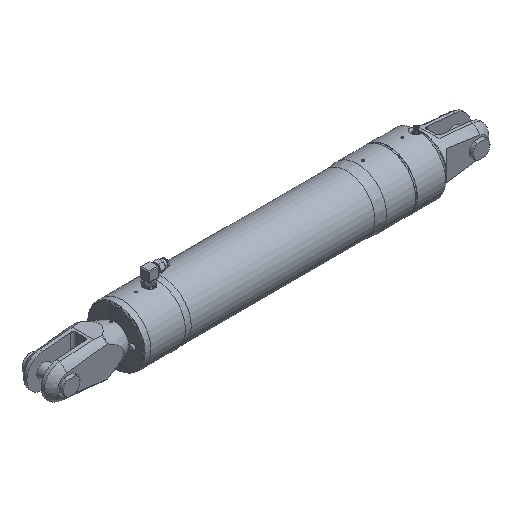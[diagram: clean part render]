
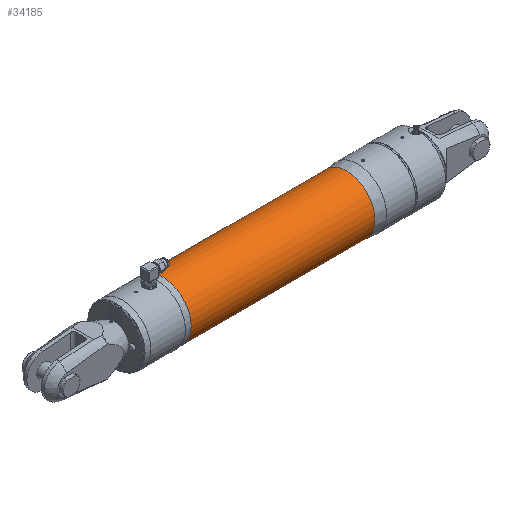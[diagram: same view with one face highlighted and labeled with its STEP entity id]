
A CAD part, isometric view. The second image highlights one B-rep face of the part: STEP entity #34185.
In plain terms, the highlighted cylindrical face has radius 76.2 mm (diameter 152.4 mm), a full revolution.
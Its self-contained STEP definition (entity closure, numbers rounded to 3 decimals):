
#4786=LINE('',#61471,#7758);
#7758=VECTOR('',#41206,76.2);
#8076=CYLINDRICAL_SURFACE('',#35657,76.2);
#11414=FACE_OUTER_BOUND('',#13332,.T.);
#13332=EDGE_LOOP('',(#30359,#30360,#30361,#30362,#30363,#30364));
#13842=CIRCLE('',#35654,76.2);
#13843=CIRCLE('',#35655,76.2);
#13845=CIRCLE('',#35658,76.2);
#13846=CIRCLE('',#35659,76.2);
#16839=VERTEX_POINT('',#61463);
#16840=VERTEX_POINT('',#61465);
#16841=VERTEX_POINT('',#61470);
#16842=VERTEX_POINT('',#61472);
#21413=EDGE_CURVE('',#16840,#16839,#13842,.T.);
#21414=EDGE_CURVE('',#16839,#16840,#13843,.T.);
#21416=EDGE_CURVE('',#16839,#16841,#4786,.T.);
#21417=EDGE_CURVE('',#16842,#16841,#13845,.T.);
#21418=EDGE_CURVE('',#16841,#16842,#13846,.T.);
#30359=ORIENTED_EDGE('',*,*,#21413,.T.);
#30360=ORIENTED_EDGE('',*,*,#21416,.T.);
#30361=ORIENTED_EDGE('',*,*,#21417,.F.);
#30362=ORIENTED_EDGE('',*,*,#21418,.F.);
#30363=ORIENTED_EDGE('',*,*,#21416,.F.);
#30364=ORIENTED_EDGE('',*,*,#21414,.T.);
#34185=ADVANCED_FACE('',(#11414),#8076,.T.);
#35654=AXIS2_PLACEMENT_3D('',#61466,#41198,#41199);
#35655=AXIS2_PLACEMENT_3D('',#61467,#41200,#41201);
#35657=AXIS2_PLACEMENT_3D('',#61469,#41204,#41205);
#35658=AXIS2_PLACEMENT_3D('',#61473,#41207,#41208);
#35659=AXIS2_PLACEMENT_3D('',#61474,#41209,#41210);
#41198=DIRECTION('center_axis',(1.,0.,0.));
#41199=DIRECTION('ref_axis',(0.,0.,
-1.));
#41200=DIRECTION('center_axis',(1.,0.,0.));
#41201=DIRECTION('ref_axis',(0.,0.,
-1.));
#41204=DIRECTION('center_axis',(1.,0.,0.));
#41205=DIRECTION('ref_axis',(0.,0.,
1.));
#41206=DIRECTION('',(1.,0.,0.));
#41207=DIRECTION('center_axis',(1.,0.,0.));
#41208=DIRECTION('ref_axis',(0.,0.,
-1.));
#41209=DIRECTION('center_axis',(1.,0.,0.));
#41210=DIRECTION('ref_axis',(0.,0.,
-1.));
#61463=CARTESIAN_POINT('',(-591.234,0.,-76.2));
#61465=CARTESIAN_POINT('',(-591.234,0.,76.2));
#61466=CARTESIAN_POINT('Origin',(-591.234,0.,
0.));
#61467=CARTESIAN_POINT('Origin',(-591.234,0.,
0.));
#61469=CARTESIAN_POINT('Origin',(-344.138,0.,
0.));
#61470=CARTESIAN_POINT('',(-97.041,0.,-76.2));
#61471=CARTESIAN_POINT('',(-344.138,0.,-76.2));
#61472=CARTESIAN_POINT('',(-97.041,0.,76.2));
#61473=CARTESIAN_POINT('Origin',(-97.041,0.,
0.));
#61474=CARTESIAN_POINT('Origin',(-97.041,0.,
0.));
